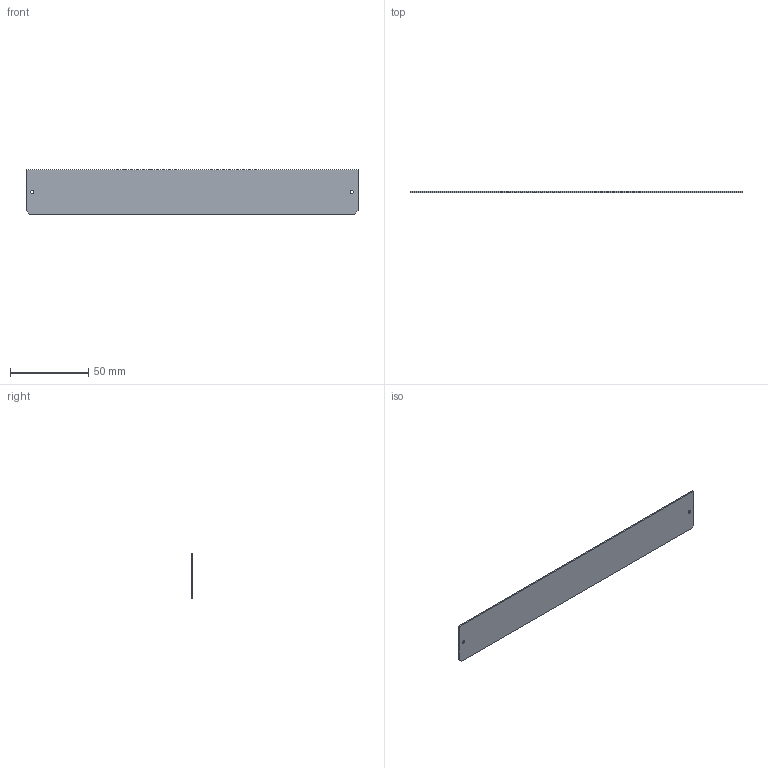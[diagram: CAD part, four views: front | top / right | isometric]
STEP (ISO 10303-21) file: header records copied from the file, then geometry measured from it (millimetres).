
FILE_DESCRIPTION (( 'STEP AP214' ), '1' );
FILE_NAME ('LBRX-00-200-6-POLARIZER-V.STEP', '2021-11-05T05:59:55', ( '' ), ( '' ), 'SwSTEP 2.0', 'SolidWorks 2021', '' );
FILE_SCHEMA (( 'AUTOMOTIVE_DESIGN' ));
Length unit declared in the file: millimetre
Products named in the file (1): LBRX-00-200-6-POLARIZER-V
Bounding box: 212 x 0.8 x 28.2 mm (x, y, z)
Volume: 4774.5 mm3; surface area: 12328.7 mm2
Topology: 1 solids, 1 shells, 12 faces, 30 edges, 20 vertices
Faces by surface type: plane 8, cylinder 4
Entity records: 404 total; most frequent: DIRECTION 64, CARTESIAN_POINT 63, ORIENTED_EDGE 60, EDGE_CURVE 30, VECTOR 22, LINE 22, AXIS2_PLACEMENT_3D 21, VERTEX_POINT 20
